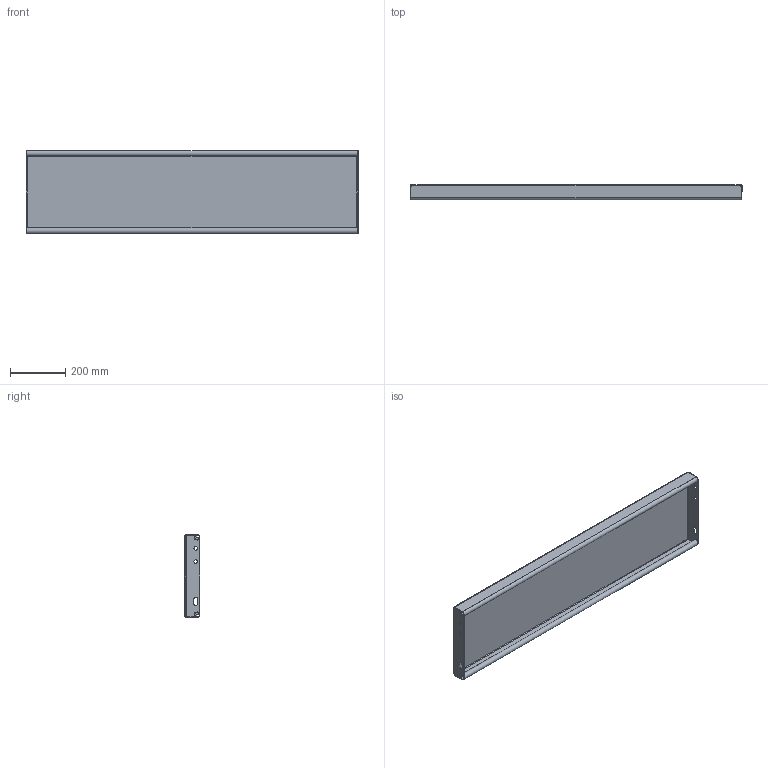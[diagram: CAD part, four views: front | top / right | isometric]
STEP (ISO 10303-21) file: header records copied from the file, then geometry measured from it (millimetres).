
FILE_DESCRIPTION (( 'STEP AP214' ), '1' );
FILE_NAME ('OPTIMO-Tread-Achil-O2-1200x300x57x2-st240-F100560100_plain.STEP', '2021-03-18T12:53:39', ( '' ), ( '' ), 'SwSTEP 2.0', 'SolidWorks 2021', '' );
FILE_SCHEMA (( 'AUTOMOTIVE_DESIGN' ));
Length unit declared in the file: millimetre
Products named in the file (1): OPTIMO-Tread-Achil-O2-1200x300x57x2-st240-F100560100_plain
Bounding box: 1200 x 57 x 300 mm (x, y, z)
Volume: 2203022.1 mm3; surface area: 1220986.7 mm2
Topology: 1 solids, 1 shells, 252 faces, 652 edges, 420 vertices
Faces by surface type: plane 173, cylinder 40, bspline 39
Entity records: 10072 total; most frequent: CARTESIAN_POINT 4116, ORIENTED_EDGE 1304, DIRECTION 1050, EDGE_CURVE 652, LINE 494, VECTOR 494, VERTEX_POINT 420, EDGE_LOOP 282
